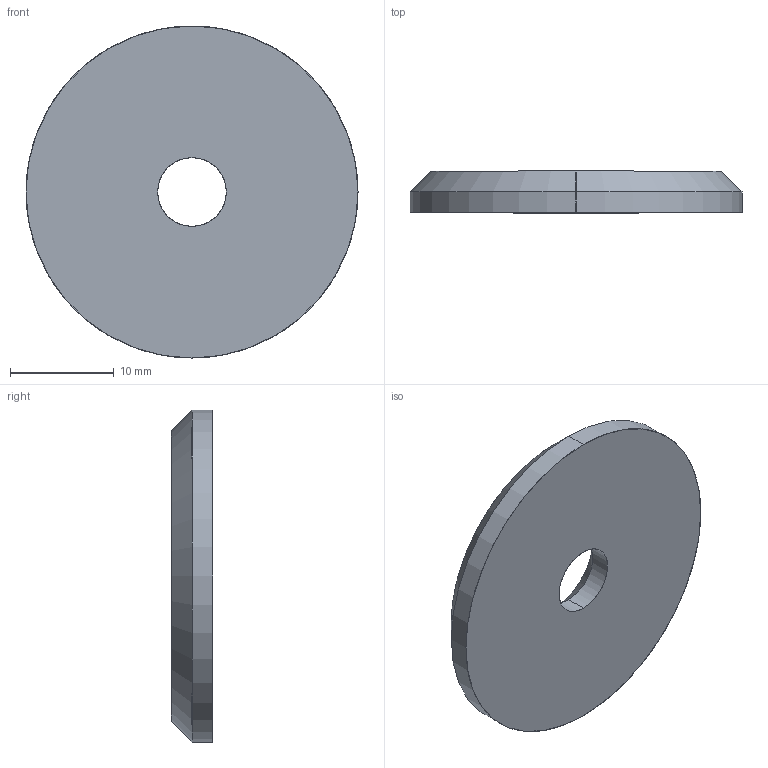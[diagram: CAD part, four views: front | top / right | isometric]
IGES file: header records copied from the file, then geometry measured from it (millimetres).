
Start section: SolidWorks IGES file using analytic representation for surfaces
Global section: file name: C:\Documents and Settings\IANO\Desktop\Temp File\Process pending\EXISTING\36720_v2\36720_v2_20170629_IGES\36720.W0032.igs; native system: SolidWorks 2009; preprocessor: SolidWorks 2009; author: IANO; date: 170627.110832; units: millimetre
Bounding box: 32 x 4 x 32 mm (x, y, z)
Surface area: 1883.1 mm2 (no closed solid volume)
Topology: 0 solids, 0 shells, 10 faces, 224 edges, 224 vertices
Faces by surface type: revolution 8, bspline 2
